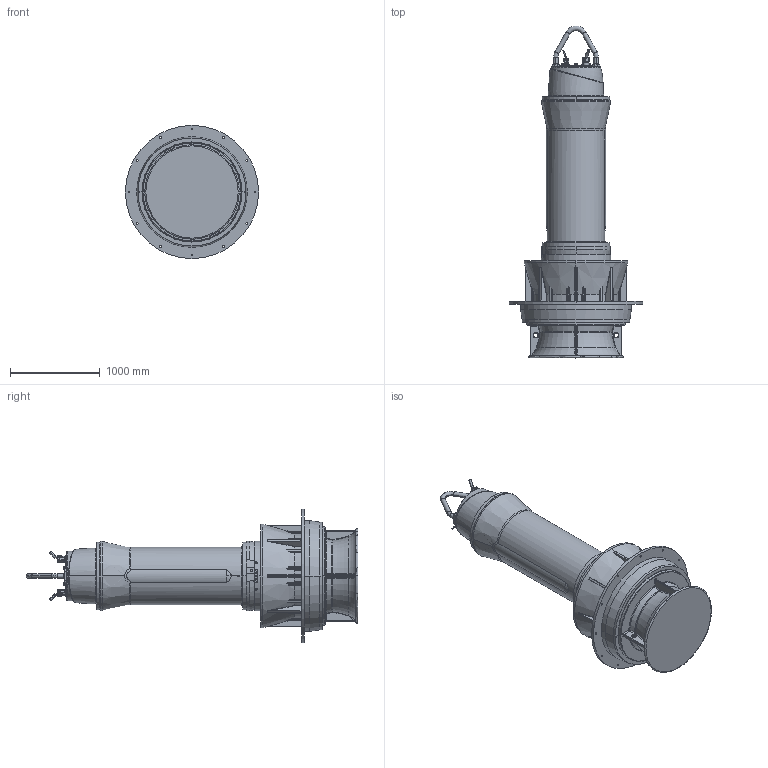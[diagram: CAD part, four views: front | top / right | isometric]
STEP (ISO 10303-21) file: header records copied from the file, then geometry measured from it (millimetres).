
FILE_DESCRIPTION (( 'STEP AP214' ), '1' );
FILE_NAME ('PE7_VUPX1000_FU_E.STEP', '2017-05-04T06:17:38', ( '' ), ( '' ), 'SwSTEP 2.0', 'SolidWorks 2017', '' );
FILE_SCHEMA (( 'AUTOMOTIVE_DESIGN' ));
Length unit declared in the file: millimetre
Products named in the file (1): PE7_VUPX1000_FU_E
Bounding box: 1480 x 3688.59 x 1480 mm (x, y, z)
Volume: 1605452098 mm3; surface area: 15257456 mm2
Topology: 4 solids, 24 shells, 2824 faces, 7007 edges, 4199 vertices
Faces by surface type: plane 895, cylinder 752, bspline 499, torus 349, cone 225, sphere 104
Entity records: 149353 total; most frequent: CARTESIAN_POINT 55613, ORIENTED_EDGE 13674, DIRECTION 12250, EDGE_CURVE 6837, AXIS2_PLACEMENT_3D 4795, VERTEX_POINT 4188, EDGE_LOOP 3043, UNCERTAINTY_MEASURE_WITH_UNIT 2830
